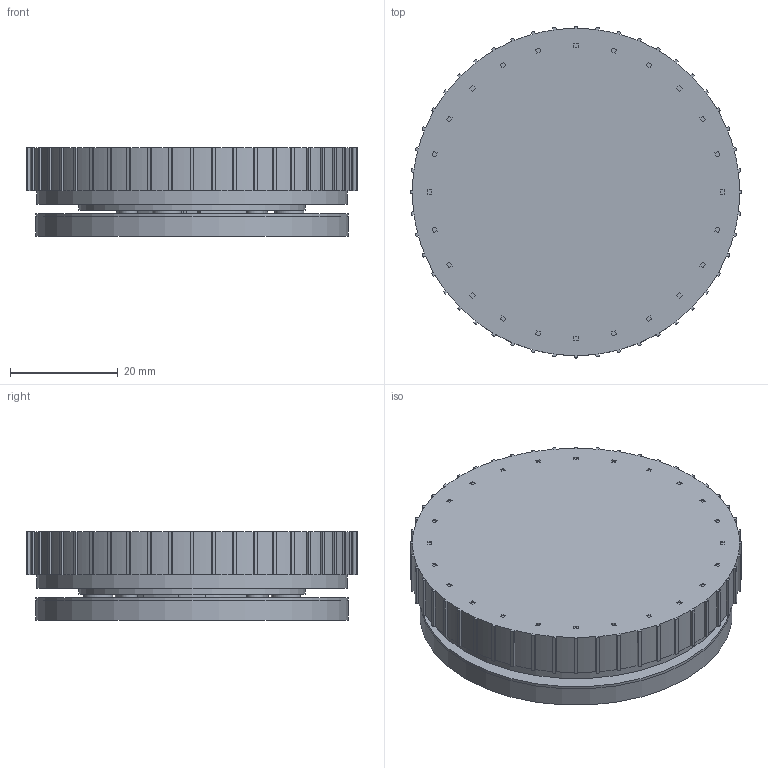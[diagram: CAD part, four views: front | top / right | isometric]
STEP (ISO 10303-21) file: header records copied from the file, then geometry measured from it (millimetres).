
FILE_DESCRIPTION(('Open CASCADE Model'),'2;1');
FILE_NAME('Open CASCADE Shape Model','2026-11-12T18:16:48',('Author'),( 'Open CASCADE'),'Open CASCADE STEP processor 7.9','Open CASCADE 7.9' ,'Unknown');
FILE_SCHEMA(('AUTOMOTIVE_DESIGN { 1 0 10303 214 1 1 1 1 }'));
Length unit declared in the file: millimetre
Products named in the file (55): V3_Assembled; PCB; Cell; PCB_Fasteners; Electronic_U1; Electronic_BT1; Electronic_C4; Electronic_C9; Electronic_C15; Electronic_C5; Electronic_C8; Electronic_C10; Electronic_C16; Electronic_C18; Electronic_J_DEBUG; Electronic_R4; Electronic_U2; Electronic_C6; Electronic_R1; Electronic_R2; Electronic_R3; Electronic_X1; Electronic_C1; Electronic_C2; Electronic_X2; Electronic_C11; Electronic_C12; Electronic_L1; Electronic_L2; Electronic_C3; Electronic_ANT1; Bearing_6808; Magnet; Cap_circular; Base_V3_Discs; Attachment_Disc_01; Attachment_Disc_02; Attachment_Disc_03; Attachment_Disc_04; Attachment_Disc_05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
Assembly tree (54 placements, depth 2):
  V3_Assembled
    PCB
    Cell
    PCB_Fasteners
    Electronic_U1
    Electronic_BT1
    Electronic_C4
    Electronic_C9
    Electronic_C15
    Electronic_C5
    Electronic_C8
    Electronic_C10
    Electronic_C16
    Electronic_C18
    Electronic_J_DEBUG
    Electronic_R4
    Electronic_U2
    Electronic_C6
    Electronic_R1
    Electronic_R2
    Electronic_R3
    Electronic_X1
    Electronic_C1
    Electronic_C2
    Electronic_X2
    Electronic_C11
    Electronic_C12
    Electronic_L1
    Electronic_L2
    Electronic_C3
    Electronic_ANT1
    Bearing_6808
    Magnet
    Cap_circular
    Base_V3_Discs
    Attachment_Disc_01
    Attachment_Disc_02
    Attachment_Disc_03
    Attachment_Disc_04
    Attachment_Disc_05
    Attachment_Disc_06
    Attachment_Disc_07
    Attachment_Disc_08
    Attachment_Disc_09
    Attachment_Disc_10
    Attachment_Disc_11
    Attachment_Disc_12
    Attachment_Disc_13
    Attachment_Disc_14
    Attachment_Disc_15
    Attachment_Disc_16
    Attachment_Disc_17
    Attachment_Disc_18
    Attachment_Disc_19
    Attachment_Disc_20
Bounding box: 61.6 x 61.6 x 16.4 mm (x, y, z)
Volume: 28760.8 mm3; surface area: 41469.3 mm2
Topology: 254 solids, 254 shells, 11450 faces, 30175 edges, 19729 vertices
Faces by surface type: plane 6668, bspline 2964, cylinder 1451, sphere 211, extrusion 76, torus 48, cone 32
Full cylindrical faces by diameter (mm): 0.36 x21, 1.6 x4, 1.96 x18, 2.2 x4, 3.2 x4, 3.8 x2, 5 x8, 5.2 x1, 5.4 x3, 6 x20, 6.4 x20, 7 x1, 22.2 x2, 23.2 x1, 23.3 x1, 24.5 x1, 36.5 x1, 37.3 x1, 40 x1, 40.05 x1, 41.4 x1, 42 x1, 43.9 x2, 43.96 x2, 44.2 x2, 48.04 x2, 48.1 x2, 50 x1, 50.7 x4, 51.4 x2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
Entity records: 836295 total; most frequent: CARTESIAN_POINT 276113, DIRECTION 86327, VECTOR 62623, LINE 62547, ORIENTED_EDGE 59928, PCURVE 59928, DEFINITIONAL_REPRESENTATION 59928, EDGE_CURVE 29964
